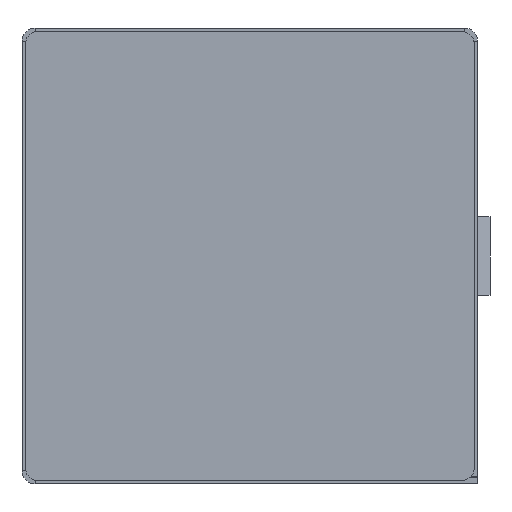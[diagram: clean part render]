
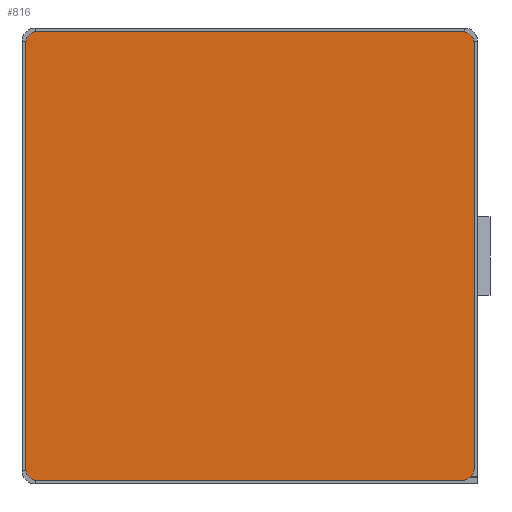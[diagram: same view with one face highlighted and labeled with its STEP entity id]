
A CAD part, front view. The second image highlights one B-rep face of the part: STEP entity #816.
In plain terms, the highlighted planar face has unit normal (0, -1, 0) as drawn and (0, 0, -1) by its records, which use the part's own axes.
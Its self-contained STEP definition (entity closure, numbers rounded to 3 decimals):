
#122 = CIRCLE ( 'NONE', #3532, 2. ) ;
#161 = PLANE ( 'NONE',  #3900 ) ;
#303 = EDGE_CURVE ( 'NONE', #963, #2208, #2492, .T. ) ;
#363 = ORIENTED_EDGE ( 'NONE', *, *, #303, .F. ) ;
#397 = DIRECTION ( 'NONE',  ( -1., 0., 0. ) ) ;
#406 = DIRECTION ( 'NONE',  ( 0., 1., 0. ) ) ;
#409 = VERTEX_POINT ( 'NONE', #3807 ) ;
#565 = DIRECTION ( 'NONE',  ( 1., 0., 0. ) ) ;
#605 = CARTESIAN_POINT ( 'NONE',  ( -34.5, -32.5, -1. ) ) ;
#692 = VERTEX_POINT ( 'NONE', #4033 ) ;
#721 = CARTESIAN_POINT ( 'NONE',  ( -32.5, 34.5, -1. ) ) ;
#816 = ADVANCED_FACE ( 'NONE', ( #3562 ), #161, .T. ) ;
#858 = EDGE_CURVE ( 'NONE', #4219, #2576, #1291, .T. ) ;
#884 = EDGE_CURVE ( 'NONE', #4425, #1971, #1752, .T. ) ;
#938 = ORIENTED_EDGE ( 'NONE', *, *, #2138, .F. ) ;
#956 = VECTOR ( 'NONE', #406, 1000. ) ;
#963 = VERTEX_POINT ( 'NONE', #2169 ) ;
#1233 = DIRECTION ( 'NONE',  ( -1., 0., 0. ) ) ;
#1291 = CIRCLE ( 'NONE', #4696, 2. ) ;
#1343 = CARTESIAN_POINT ( 'NONE',  ( 32.5, -34.5, -1. ) ) ;
#1373 = ORIENTED_EDGE ( 'NONE', *, *, #4843, .F. ) ;
#1410 = CARTESIAN_POINT ( 'NONE',  ( -32.5, 32.5, -1. ) ) ;
#1463 = ORIENTED_EDGE ( 'NONE', *, *, #4083, .F. ) ;
#1495 = CARTESIAN_POINT ( 'NONE',  ( -34.5, 32.5, -1. ) ) ;
#1499 = ORIENTED_EDGE ( 'NONE', *, *, #884, .F. ) ;
#1752 = CIRCLE ( 'NONE', #1904, 2. ) ;
#1763 = ORIENTED_EDGE ( 'NONE', *, *, #4309, .F. ) ;
#1776 = DIRECTION ( 'NONE',  ( 0., 0., 1. ) ) ;
#1814 = ORIENTED_EDGE ( 'NONE', *, *, #4676, .F. ) ;
#1904 = AXIS2_PLACEMENT_3D ( 'NONE', #2984, #1776, #3293 ) ;
#1950 = CARTESIAN_POINT ( 'NONE',  ( 32.5, 32.5, -1. ) ) ;
#1971 = VERTEX_POINT ( 'NONE', #2271 ) ;
#1992 = EDGE_LOOP ( 'NONE', ( #363, #1463, #2389, #1373, #1763, #1814, #1499, #938 ) ) ;
#2066 = DIRECTION ( 'NONE',  ( 0., -1., 0. ) ) ;
#2138 = EDGE_CURVE ( 'NONE', #2208, #4425, #4633, .T. ) ;
#2169 = CARTESIAN_POINT ( 'NONE',  ( -34.5, -32.5, -1. ) ) ;
#2208 = VERTEX_POINT ( 'NONE', #2514 ) ;
#2271 = CARTESIAN_POINT ( 'NONE',  ( 34.5, -32.5, -1. ) ) ;
#2389 = ORIENTED_EDGE ( 'NONE', *, *, #858, .F. ) ;
#2416 = LINE ( 'NONE', #2805, #4913 ) ;
#2492 = CIRCLE ( 'NONE', #3847, 2. ) ;
#2514 = CARTESIAN_POINT ( 'NONE',  ( -32.5, -34.5, -1. ) ) ;
#2566 = VECTOR ( 'NONE', #2066, 1000. ) ;
#2576 = VERTEX_POINT ( 'NONE', #1495 ) ;
#2693 = DIRECTION ( 'NONE',  ( 0., 0., 1. ) ) ;
#2796 = DIRECTION ( 'NONE',  ( 0., 0., -1. ) ) ;
#2805 = CARTESIAN_POINT ( 'NONE',  ( -32.5, 34.5, -1. ) ) ;
#2984 = CARTESIAN_POINT ( 'NONE',  ( 32.5, -32.5, -1. ) ) ;
#3293 = DIRECTION ( 'NONE',  ( 1., 0., 0. ) ) ;
#3313 = DIRECTION ( 'NONE',  ( 0., 0., 1. ) ) ;
#3389 = DIRECTION ( 'NONE',  ( -1., 0., 0. ) ) ;
#3467 = CARTESIAN_POINT ( 'NONE',  ( -32.5, -32.5, -1. ) ) ;
#3532 = AXIS2_PLACEMENT_3D ( 'NONE', #1950, #2693, #397 ) ;
#3562 = FACE_OUTER_BOUND ( 'NONE', #1992, .T. ) ;
#3807 = CARTESIAN_POINT ( 'NONE',  ( 34.5, 32.5, -1. ) ) ;
#3847 = AXIS2_PLACEMENT_3D ( 'NONE', #3467, #3849, #4583 ) ;
#3849 = DIRECTION ( 'NONE',  ( 0., 0., 1. ) ) ;
#3900 = AXIS2_PLACEMENT_3D ( 'NONE', #4702, #2796, #3961 ) ;
#3961 = DIRECTION ( 'NONE',  ( -1., 0., 0. ) ) ;
#3966 = LINE ( 'NONE', #605, #2566 ) ;
#4033 = CARTESIAN_POINT ( 'NONE',  ( 32.5, 34.5, -1. ) ) ;
#4083 = EDGE_CURVE ( 'NONE', #2576, #963, #3966, .T. ) ;
#4148 = VECTOR ( 'NONE', #565, 1000. ) ;
#4206 = CARTESIAN_POINT ( 'NONE',  ( 34.5, -32.5, -1. ) ) ;
#4219 = VERTEX_POINT ( 'NONE', #721 ) ;
#4309 = EDGE_CURVE ( 'NONE', #409, #692, #122, .T. ) ;
#4315 = CARTESIAN_POINT ( 'NONE',  ( -32.5, -34.5, -1. ) ) ;
#4425 = VERTEX_POINT ( 'NONE', #1343 ) ;
#4583 = DIRECTION ( 'NONE',  ( -1., 0., 0. ) ) ;
#4601 = LINE ( 'NONE', #4206, #956 ) ;
#4633 = LINE ( 'NONE', #4315, #4148 ) ;
#4676 = EDGE_CURVE ( 'NONE', #1971, #409, #4601, .T. ) ;
#4696 = AXIS2_PLACEMENT_3D ( 'NONE', #1410, #3313, #3389 ) ;
#4702 = CARTESIAN_POINT ( 'NONE',  ( -32.5, -32.5, -1. ) ) ;
#4843 = EDGE_CURVE ( 'NONE', #692, #4219, #2416, .T. ) ;
#4913 = VECTOR ( 'NONE', #1233, 1000. ) ;
